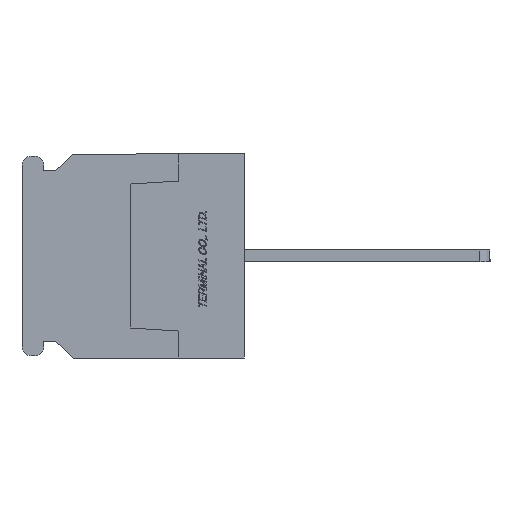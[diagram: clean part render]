
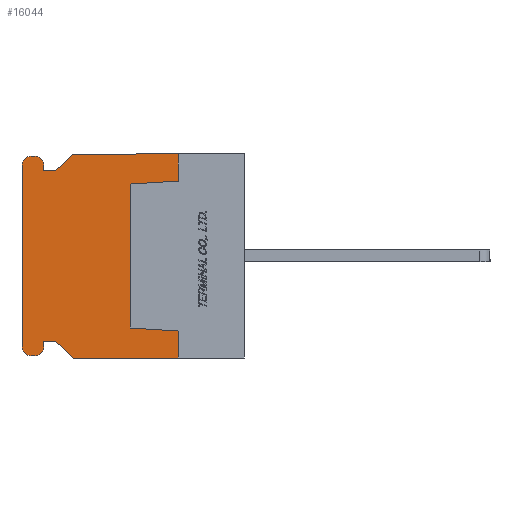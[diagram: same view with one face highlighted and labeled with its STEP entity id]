
A CAD part, left-side view. The second image highlights one B-rep face of the part: STEP entity #16044.
In plain terms, the highlighted planar face has unit normal (-1, 0, 0).
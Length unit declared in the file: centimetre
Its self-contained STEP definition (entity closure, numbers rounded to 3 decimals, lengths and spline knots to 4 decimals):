
#704=CIRCLE('',#27649,0.075);
#705=CIRCLE('',#27652,0.075);
#706=CIRCLE('',#27655,0.075);
#707=CIRCLE('',#27658,0.075);
#1048=VERTEX_POINT('',#21348);
#1049=VERTEX_POINT('',#21350);
#1050=VERTEX_POINT('',#21354);
#1051=VERTEX_POINT('',#21358);
#1052=VERTEX_POINT('',#21362);
#1053=VERTEX_POINT('',#21366);
#1054=VERTEX_POINT('',#21370);
#1055=VERTEX_POINT('',#21374);
#1056=VERTEX_POINT('',#21378);
#1057=VERTEX_POINT('',#21382);
#1058=VERTEX_POINT('',#21386);
#1059=VERTEX_POINT('',#21390);
#1060=VERTEX_POINT('',#21394);
#1061=VERTEX_POINT('',#21398);
#1062=VERTEX_POINT('',#21402);
#1063=VERTEX_POINT('',#21403);
#1064=VERTEX_POINT('',#21406);
#1065=VERTEX_POINT('',#21408);
#1066=VERTEX_POINT('',#21410);
#1067=VERTEX_POINT('',#21412);
#2729=VECTOR('',#17701,1.);
#2732=VECTOR('',#17705,1.);
#2734=VECTOR('',#17708,1.);
#2737=VECTOR('',#17716,1.);
#2740=VECTOR('',#17724,1.);
#2743=VECTOR('',#17732,1.);
#2746=VECTOR('',#17740,1.);
#2748=VECTOR('',#17743,1.);
#2750=VECTOR('',#17746,1.);
#2751=VECTOR('',#17748,1.);
#2752=VECTOR('',#17749,1.);
#2753=VECTOR('',#17750,1.);
#2754=VECTOR('',#17751,1.);
#2755=VECTOR('',#17752,1.);
#2756=VECTOR('',#17753,1.);
#2757=VECTOR('',#17754,1.);
#4567=LINE('',#21349,#2729);
#4570=LINE('',#21355,#2732);
#4572=LINE('',#21359,#2734);
#4575=LINE('',#21367,#2737);
#4578=LINE('',#21375,#2740);
#4581=LINE('',#21383,#2743);
#4584=LINE('',#21391,#2746);
#4586=LINE('',#21395,#2748);
#4588=LINE('',#21399,#2750);
#4589=LINE('',#21401,#2751);
#4590=LINE('',#21404,#2752);
#4591=LINE('',#21405,#2753);
#4592=LINE('',#21407,#2754);
#4593=LINE('',#21409,#2755);
#4594=LINE('',#21411,#2756);
#4595=LINE('',#21413,#2757);
#6409=EDGE_CURVE('',#1048,#1049,#4567,.T.);
#6412=EDGE_CURVE('',#1050,#1048,#4570,.T.);
#6414=EDGE_CURVE('',#1051,#1050,#4572,.T.);
#6416=EDGE_CURVE('',#1052,#1051,#704,.T.);
#6418=EDGE_CURVE('',#1053,#1052,#4575,.T.);
#6420=EDGE_CURVE('',#1054,#1053,#705,.T.);
#6422=EDGE_CURVE('',#1055,#1054,#4578,.T.);
#6424=EDGE_CURVE('',#1056,#1055,#706,.T.);
#6426=EDGE_CURVE('',#1057,#1056,#4581,.T.);
#6428=EDGE_CURVE('',#1058,#1057,#707,.T.);
#6430=EDGE_CURVE('',#1059,#1058,#4584,.T.);
#6432=EDGE_CURVE('',#1060,#1059,#4586,.T.);
#6434=EDGE_CURVE('',#1061,#1060,#4588,.T.);
#6435=EDGE_CURVE('',#1062,#1063,#4589,.T.);
#6436=EDGE_CURVE('',#1049,#1063,#4590,.T.);
#6437=EDGE_CURVE('',#1064,#1061,#4591,.T.);
#6438=EDGE_CURVE('',#1064,#1065,#4592,.T.);
#6439=EDGE_CURVE('',#1065,#1066,#4593,.T.);
#6440=EDGE_CURVE('',#1066,#1067,#4594,.T.);
#6441=EDGE_CURVE('',#1067,#1062,#4595,.T.);
#8978=ORIENTED_EDGE('',*,*,#6435,.T.);
#8979=ORIENTED_EDGE('',*,*,#6436,.F.);
#8980=ORIENTED_EDGE('',*,*,#6409,.F.);
#8981=ORIENTED_EDGE('',*,*,#6412,.F.);
#8982=ORIENTED_EDGE('',*,*,#6414,.F.);
#8983=ORIENTED_EDGE('',*,*,#6416,.F.);
#8984=ORIENTED_EDGE('',*,*,#6418,.F.);
#8985=ORIENTED_EDGE('',*,*,#6420,.F.);
#8986=ORIENTED_EDGE('',*,*,#6422,.F.);
#8987=ORIENTED_EDGE('',*,*,#6424,.F.);
#8988=ORIENTED_EDGE('',*,*,#6426,.F.);
#8989=ORIENTED_EDGE('',*,*,#6428,.F.);
#8990=ORIENTED_EDGE('',*,*,#6430,.F.);
#8991=ORIENTED_EDGE('',*,*,#6432,.F.);
#8992=ORIENTED_EDGE('',*,*,#6434,.F.);
#8993=ORIENTED_EDGE('',*,*,#6437,.F.);
#8994=ORIENTED_EDGE('',*,*,#6438,.T.);
#8995=ORIENTED_EDGE('',*,*,#6439,.T.);
#8996=ORIENTED_EDGE('',*,*,#6440,.T.);
#8997=ORIENTED_EDGE('',*,*,#6441,.T.);
#13956=EDGE_LOOP('',(#8978,#8979,#8980,#8981,#8982,#8983,#8984,#8985,#8986,
#8987,#8988,#8989,#8990,#8991,#8992,#8993,#8994,#8995,#8996,#8997));
#15000=FACE_BOUND('',#13956,.T.);
#16044=ADVANCED_FACE('',(#15000),#16984,.F.);
#16984=PLANE('',#27662);
#17701=DIRECTION('',(0.,-0.731,0.682));
#17705=DIRECTION('',(0.,-1.,0.));
#17708=DIRECTION('',(0.,0.,-1.));
#17712=DIRECTION('',(1.,0.,0.));
#17713=DIRECTION('',(0.,0.,-0.075));
#17716=DIRECTION('',(0.,-1.,0.));
#17720=DIRECTION('',(1.,0.,0.));
#17721=DIRECTION('',(0.,0.,-0.075));
#17724=DIRECTION('',(0.,0.,1.));
#17728=DIRECTION('',(1.,0.,0.));
#17729=DIRECTION('',(0.,0.,-0.075));
#17732=DIRECTION('',(0.,1.,0.));
#17736=DIRECTION('',(1.,0.,0.));
#17737=DIRECTION('',(0.,0.,-0.075));
#17740=DIRECTION('',(0.,0.,-1.));
#17743=DIRECTION('',(0.,1.,0.));
#17746=DIRECTION('',(0.,0.731,0.682));
#17747=DIRECTION('',(1.,0.,0.));
#17748=DIRECTION('',(0.,0.,1.));
#17749=DIRECTION('',(0.,-1.,0.));
#17750=DIRECTION('',(0.,1.,0.));
#17751=DIRECTION('',(0.,0.,1.));
#17752=DIRECTION('',(0.,0.998,0.062));
#17753=DIRECTION('',(0.,0.,1.));
#17754=DIRECTION('',(0.,-0.998,0.062));
#21348=CARTESIAN_POINT('',(-1.59,0.42,0.71));
#21349=CARTESIAN_POINT('',(-1.59,0.42,0.71));
#21350=CARTESIAN_POINT('',(-1.59,0.27,0.85));
#21354=CARTESIAN_POINT('',(-1.59,0.52,0.71));
#21355=CARTESIAN_POINT('',(-1.59,0.52,0.71));
#21358=CARTESIAN_POINT('',(-1.59,0.52,0.755));
#21359=CARTESIAN_POINT('',(-1.59,0.52,0.755));
#21362=CARTESIAN_POINT('',(-1.59,0.595,0.83));
#21363=CARTESIAN_POINT('',(-1.59,0.595,0.755));
#21366=CARTESIAN_POINT('',(-1.59,0.625,0.83));
#21367=CARTESIAN_POINT('',(-1.59,0.625,0.83));
#21370=CARTESIAN_POINT('',(-1.59,0.7,0.755));
#21371=CARTESIAN_POINT('',(-1.59,0.625,0.755));
#21374=CARTESIAN_POINT('',(-1.59,0.7,-0.755));
#21375=CARTESIAN_POINT('',(-1.59,0.7,-0.755));
#21378=CARTESIAN_POINT('',(-1.59,0.625,-0.83));
#21379=CARTESIAN_POINT('',(-1.59,0.625,-0.755));
#21382=CARTESIAN_POINT('',(-1.59,0.595,-0.83));
#21383=CARTESIAN_POINT('',(-1.59,0.595,-0.83));
#21386=CARTESIAN_POINT('',(-1.59,0.52,-0.755));
#21387=CARTESIAN_POINT('',(-1.59,0.595,-0.755));
#21390=CARTESIAN_POINT('',(-1.59,0.52,-0.71));
#21391=CARTESIAN_POINT('',(-1.59,0.52,-0.71));
#21394=CARTESIAN_POINT('',(-1.59,0.42,-0.71));
#21395=CARTESIAN_POINT('',(-1.59,0.42,-0.71));
#21398=CARTESIAN_POINT('',(-1.59,0.27,-0.85));
#21399=CARTESIAN_POINT('',(-1.59,0.27,-0.85));
#21400=CARTESIAN_POINT('',(-1.59,-0.2117,0.));
#21401=CARTESIAN_POINT('',(-1.59,-0.6,0.625));
#21402=CARTESIAN_POINT('',(-1.59,-0.6,0.625));
#21403=CARTESIAN_POINT('',(-1.59,-0.6,0.85));
#21404=CARTESIAN_POINT('',(-1.59,0.27,0.85));
#21405=CARTESIAN_POINT('',(-1.59,-1.15,-0.85));
#21406=CARTESIAN_POINT('',(-1.59,-0.6,-0.85));
#21407=CARTESIAN_POINT('',(-1.59,-0.6,-0.85));
#21408=CARTESIAN_POINT('',(-1.59,-0.6,-0.625));
#21409=CARTESIAN_POINT('',(-1.59,-0.6,-0.625));
#21410=CARTESIAN_POINT('',(-1.59,-0.2,-0.6));
#21411=CARTESIAN_POINT('',(-1.59,-0.2,-0.6));
#21412=CARTESIAN_POINT('',(-1.59,-0.2,0.6));
#21413=CARTESIAN_POINT('',(-1.59,-0.2,0.6));
#27649=AXIS2_PLACEMENT_3D('',#21363,#17712,#17713);
#27652=AXIS2_PLACEMENT_3D('',#21371,#17720,#17721);
#27655=AXIS2_PLACEMENT_3D('',#21379,#17728,#17729);
#27658=AXIS2_PLACEMENT_3D('',#21387,#17736,#17737);
#27662=AXIS2_PLACEMENT_3D('',#21400,#17747,$);
